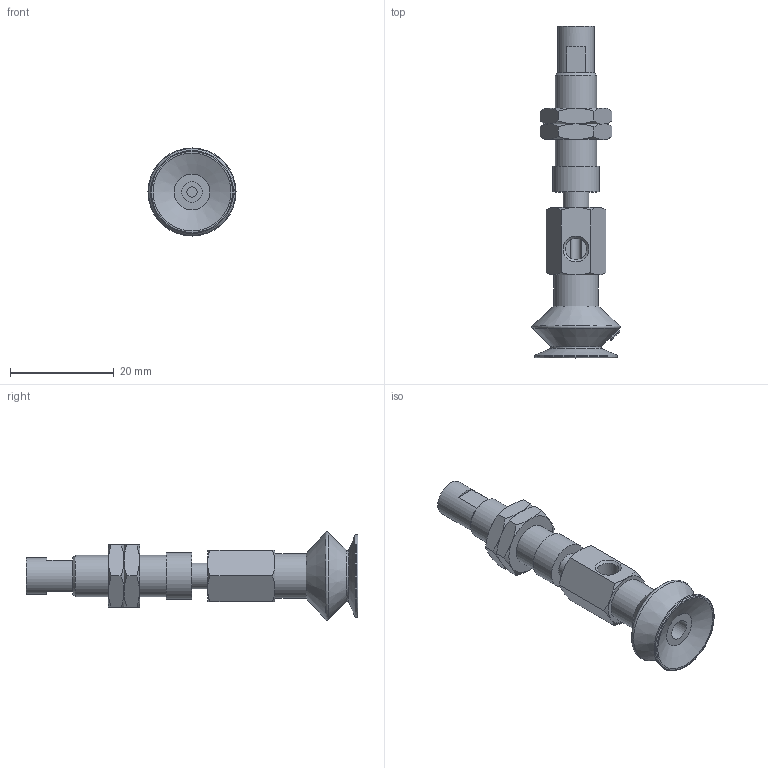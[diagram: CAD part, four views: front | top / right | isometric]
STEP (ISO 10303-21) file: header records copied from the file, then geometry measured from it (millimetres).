
FILE_DESCRIPTION(('STEP AP203'),'1');
FILE_NAME('.stp','2025-04-01T08:38:18',(' '),(' '),'Spatial InterOp 3D',' ',' ');
FILE_SCHEMA(('CONFIG_CONTROL_DESIGN'));
Length unit declared in the file: millimetre
Products named in the file (8): BNABPBYS-15A-3-※; CONNECTOR-15A-3-PB; Nut-15A-S-PB; NAPBTS-15A-3--F; NAPBTS-15A-3--M; BPBG-15A-※; __27; BPBG-15A
Assembly tree (8 placements, depth 3):
  BNABPBYS-15A-3-※
    CONNECTOR-15A-3-PB
    Nut-15A-S-PB  x2
    NAPBTS-15A-3--F
    NAPBTS-15A-3--M
    BPBG-15A-※
      __27
      BPBG-15A
Bounding box: 17 x 64 x 17 mm (x, y, z)
Volume: 4477.7 mm3; surface area: 4810.2 mm2
Topology: 7 solids, 7 shells, 144 faces, 308 edges, 188 vertices
Faces by surface type: cone 55, plane 52, cylinder 18, torus 11, bspline 8
Full cylindrical faces by diameter (mm): 2 x1, 4 x3, 4.134 x2, 5 x3, 6 x2, 7 x1, 7.188 x2, 8 x1, 8.5 x1, 9 x1, 16 x1
Entity records: 4725 total; most frequent: CARTESIAN_POINT 2015, DIRECTION 471, ORIENTED_EDGE 414, AXIS2_PLACEMENT_3D 212, EDGE_CURVE 207, EDGE_LOOP 181, FACE_OUTER_BOUND 149, VERTEX_POINT 148
